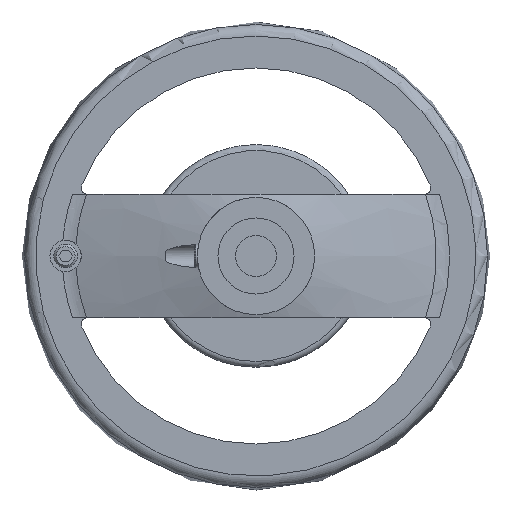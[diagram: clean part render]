
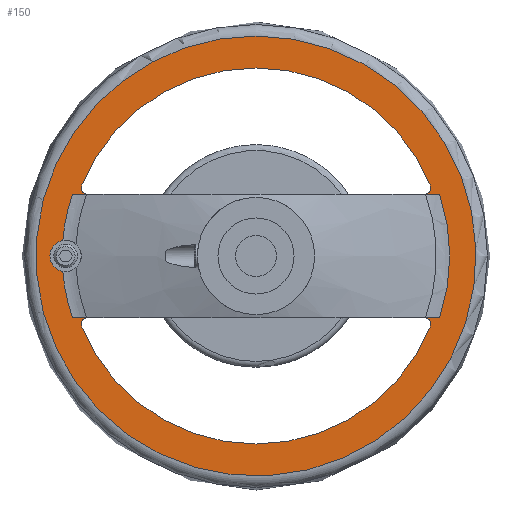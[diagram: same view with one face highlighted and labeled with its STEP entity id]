
A CAD part, left-side view. The second image highlights one B-rep face of the part: STEP entity #150.
In plain terms, the highlighted planar face has unit normal (-1, 0, 0).
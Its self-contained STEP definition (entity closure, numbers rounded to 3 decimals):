
#150 = ADVANCED_FACE( '', ( #360, #361, #362, #363 ), #364, .F. );
#360 = FACE_BOUND( '', #594, .T. );
#361 = FACE_OUTER_BOUND( '', #595, .T. );
#362 = FACE_BOUND( '', #596, .T. );
#363 = FACE_BOUND( '', #597, .T. );
#364 = PLANE( '', #598 );
#594 = EDGE_LOOP( '', ( #1190, #1191, #1192, #1193, #1194, #1195 ) );
#595 = EDGE_LOOP( '', ( #1196, #1197, #1198, #1199, #1200, #1201 ) );
#596 = EDGE_LOOP( '', ( #1202, #1203, #1204, #1205 ) );
#597 = EDGE_LOOP( '', ( #1206, #1207, #1208, #1209 ) );
#598 = AXIS2_PLACEMENT_3D( '', #1210, #1211, #1212 );
#1190 = ORIENTED_EDGE( '', *, *, #1520, .F. );
#1191 = ORIENTED_EDGE( '', *, *, #1385, .F. );
#1192 = ORIENTED_EDGE( '', *, *, #1388, .F. );
#1193 = ORIENTED_EDGE( '', *, *, #1390, .F. );
#1194 = ORIENTED_EDGE( '', *, *, #1519, .F. );
#1195 = ORIENTED_EDGE( '', *, *, #1521, .F. );
#1196 = ORIENTED_EDGE( '', *, *, #1487, .F. );
#1197 = ORIENTED_EDGE( '', *, *, #1463, .T. );
#1198 = ORIENTED_EDGE( '', *, *, #1467, .F. );
#1199 = ORIENTED_EDGE( '', *, *, #1490, .F. );
#1200 = ORIENTED_EDGE( '', *, *, #1460, .T. );
#1201 = ORIENTED_EDGE( '', *, *, #1489, .F. );
#1202 = ORIENTED_EDGE( '', *, *, #1522, .F. );
#1203 = ORIENTED_EDGE( '', *, *, #1515, .F. );
#1204 = ORIENTED_EDGE( '', *, *, #1523, .F. );
#1205 = ORIENTED_EDGE( '', *, *, #1524, .F. );
#1206 = ORIENTED_EDGE( '', *, *, #1525, .F. );
#1207 = ORIENTED_EDGE( '', *, *, #1526, .F. );
#1208 = ORIENTED_EDGE( '', *, *, #1527, .F. );
#1209 = ORIENTED_EDGE( '', *, *, #1406, .F. );
#1210 = CARTESIAN_POINT( '', ( 26., -75.109, 0. ) );
#1211 = DIRECTION( '', ( 1., 0., 0. ) );
#1212 = DIRECTION( '', ( 0., 0., -1. ) );
#1385 = EDGE_CURVE( '', #1612, #1614, #1615, .T. );
#1388 = EDGE_CURVE( '', #1617, #1612, #1619, .T. );
#1390 = EDGE_CURVE( '', #1622, #1617, #1623, .F. );
#1406 = EDGE_CURVE( '', #1650, #1652, #1653, .T. );
#1460 = EDGE_CURVE( '', #1753, #1754, #1755, .T. );
#1463 = EDGE_CURVE( '', #1760, #1758, #1761, .T. );
#1467 = EDGE_CURVE( '', #1765, #1758, #1767, .T. );
#1487 = EDGE_CURVE( '', #1760, #1802, #1803, .T. );
#1489 = EDGE_CURVE( '', #1802, #1754, #1805, .T. );
#1490 = EDGE_CURVE( '', #1753, #1765, #1806, .T. );
#1515 = EDGE_CURVE( '', #1839, #1841, #1842, .T. );
#1519 = EDGE_CURVE( '', #1845, #1622, #1847, .T. );
#1520 = EDGE_CURVE( '', #1614, #1848, #1849, .T. );
#1521 = EDGE_CURVE( '', #1848, #1845, #1850, .T. );
#1522 = EDGE_CURVE( '', #1841, #1851, #1852, .F. );
#1523 = EDGE_CURVE( '', #1853, #1839, #1854, .F. );
#1524 = EDGE_CURVE( '', #1851, #1853, #1855, .F. );
#1525 = EDGE_CURVE( '', #1856, #1650, #1857, .F. );
#1526 = EDGE_CURVE( '', #1858, #1856, #1859, .F. );
#1527 = EDGE_CURVE( '', #1652, #1858, #1860, .F. );
#1612 = VERTEX_POINT( '', #2122 );
#1614 = VERTEX_POINT( '', #2131 );
#1615 = LINE( '', #2132, #2133 );
#1617 = VERTEX_POINT( '', #2143 );
#1619 = CIRCLE( '', #2158, 66.153 );
#1622 = VERTEX_POINT( '', #2161 );
#1623 = CIRCLE( '', #2162, 5.333 );
#1650 = VERTEX_POINT( '', #2262 );
#1652 = VERTEX_POINT( '', #2265 );
#1653 = LINE( '', #2266, #2267 );
#1753 = VERTEX_POINT( '', #2482 );
#1754 = VERTEX_POINT( '', #2483 );
#1755 = CIRCLE( '', #2484, 75.109 );
#1758 = VERTEX_POINT( '', #2491 );
#1760 = VERTEX_POINT( '', #2497 );
#1761 = CIRCLE( '', #2498, 75.109 );
#1765 = VERTEX_POINT( '', #2512 );
#1767 = LINE( '', #2515, #2516 );
#1802 = VERTEX_POINT( '', #2603 );
#1803 = LINE( '', #2604, #2605 );
#1805 = LINE( '', #2608, #2609 );
#1806 = LINE( '', #2610, #2611 );
#1839 = VERTEX_POINT( '', #2743 );
#1841 = VERTEX_POINT( '', #2746 );
#1842 = LINE( '', #2747, #2748 );
#1845 = VERTEX_POINT( '', #2753 );
#1847 = CIRCLE( '', #2762, 66.153 );
#1848 = VERTEX_POINT( '', #2763 );
#1849 = CIRCLE( '', #2764, 66.153 );
#1850 = LINE( '', #2765, #2766 );
#1851 = VERTEX_POINT( '', #2767 );
#1852 = CIRCLE( '', #2768, 2. );
#1853 = VERTEX_POINT( '', #2769 );
#1854 = CIRCLE( '', #2770, 2. );
#1855 = CIRCLE( '', #2771, 64.2 );
#1856 = VERTEX_POINT( '', #2772 );
#1857 = CIRCLE( '', #2773, 2. );
#1858 = VERTEX_POINT( '', #2774 );
#1859 = CIRCLE( '', #2775, 64.2 );
#1860 = CIRCLE( '', #2776, 2. );
#2122 = CARTESIAN_POINT( '', ( 26., 62.681, -21.149 ) );
#2131 = CARTESIAN_POINT( '', ( 26., -62.681, -21.149 ) );
#2132 = CARTESIAN_POINT( '', ( 26., 160., -21.149 ) );
#2133 = VECTOR( '', #2864, 1000. );
#2143 = CARTESIAN_POINT( '', ( 26., 65.944, -5.249 ) );
#2158 = AXIS2_PLACEMENT_3D( '', #2865, #2866, #2867 );
#2161 = CARTESIAN_POINT( '', ( 26., 65.944, 5.249 ) );
#2162 = AXIS2_PLACEMENT_3D( '', #2871, #2872, #2873 );
#2262 = CARTESIAN_POINT( '', ( 26., 57.731, 21.15 ) );
#2265 = CARTESIAN_POINT( '', ( 26., -57.731, 21.15 ) );
#2266 = CARTESIAN_POINT( '', ( 26., -75.109, 21.15 ) );
#2267 = VECTOR( '', #2892, 1000. );
#2482 = CARTESIAN_POINT( '', ( 26., 72.703, 18.859 ) );
#2483 = CARTESIAN_POINT( '', ( 26., 72.703, -18.859 ) );
#2484 = AXIS2_PLACEMENT_3D( '', #3011, #3012, #3013 );
#2491 = CARTESIAN_POINT( '', ( 26., 72.508, 19.596 ) );
#2497 = CARTESIAN_POINT( '', ( 26., 72.508, -19.596 ) );
#2498 = AXIS2_PLACEMENT_3D( '', #3014, #3015, #3016 );
#2512 = CARTESIAN_POINT( '', ( 26., 72.703, 19.596 ) );
#2515 = CARTESIAN_POINT( '', ( 26., 72.703, 19.596 ) );
#2516 = VECTOR( '', #3018, 1000. );
#2603 = CARTESIAN_POINT( '', ( 26., 72.703, -19.596 ) );
#2604 = CARTESIAN_POINT( '', ( 26., 70.703, -19.596 ) );
#2605 = VECTOR( '', #3050, 1000. );
#2608 = CARTESIAN_POINT( '', ( 26., 72.703, -19.596 ) );
#2609 = VECTOR( '', #3052, 1000. );
#2610 = CARTESIAN_POINT( '', ( 26., 72.703, -19.596 ) );
#2611 = VECTOR( '', #3053, 1000. );
#2743 = CARTESIAN_POINT( '', ( 26., -57.731, -21.15 ) );
#2746 = CARTESIAN_POINT( '', ( 26., 57.731, -21.15 ) );
#2747 = CARTESIAN_POINT( '', ( 26., -75.109, -21.15 ) );
#2748 = VECTOR( '', #3081, 1000. );
#2753 = CARTESIAN_POINT( '', ( 26., 62.681, 21.149 ) );
#2762 = AXIS2_PLACEMENT_3D( '', #3084, #3085, #3086 );
#2763 = CARTESIAN_POINT( '', ( 26., -62.681, 21.149 ) );
#2764 = AXIS2_PLACEMENT_3D( '', #3087, #3088, #3089 );
#2765 = CARTESIAN_POINT( '', ( 26., -160., 21.149 ) );
#2766 = VECTOR( '', #3090, 1000. );
#2767 = CARTESIAN_POINT( '', ( 26., 59.588, -23.894 ) );
#2768 = AXIS2_PLACEMENT_3D( '', #3091, #3092, #3093 );
#2769 = CARTESIAN_POINT( '', ( 26., -59.588, -23.894 ) );
#2770 = AXIS2_PLACEMENT_3D( '', #3094, #3095, #3096 );
#2771 = AXIS2_PLACEMENT_3D( '', #3097, #3098, #3099 );
#2772 = CARTESIAN_POINT( '', ( 26., 59.588, 23.894 ) );
#2773 = AXIS2_PLACEMENT_3D( '', #3100, #3101, #3102 );
#2774 = CARTESIAN_POINT( '', ( 26., -59.588, 23.894 ) );
#2775 = AXIS2_PLACEMENT_3D( '', #3103, #3104, #3105 );
#2776 = AXIS2_PLACEMENT_3D( '', #3106, #3107, #3108 );
#2864 = DIRECTION( '', ( 0., -1., 0. ) );
#2865 = CARTESIAN_POINT( '', ( 26., 0., 0. ) );
#2866 = DIRECTION( '', ( -1., 0., 0. ) );
#2867 = DIRECTION( '', ( 0., 0., 1. ) );
#2871 = CARTESIAN_POINT( '', ( 26., 65., 0. ) );
#2872 = DIRECTION( '', ( 1., 0., 0. ) );
#2873 = DIRECTION( '', ( 0., 0., -1. ) );
#2892 = DIRECTION( '', ( 0., -1., 0. ) );
#3011 = CARTESIAN_POINT( '', ( 26., 0., 0. ) );
#3012 = DIRECTION( '', ( -1., 0., 0. ) );
#3013 = DIRECTION( '', ( 0., 0., 1. ) );
#3014 = CARTESIAN_POINT( '', ( 26., 0., 0. ) );
#3015 = DIRECTION( '', ( -1., 0., 0. ) );
#3016 = DIRECTION( '', ( 0., 0., 1. ) );
#3018 = DIRECTION( '', ( 0., -1., 0. ) );
#3050 = DIRECTION( '', ( 0., 1., 0. ) );
#3052 = DIRECTION( '', ( 0., 0., 1. ) );
#3053 = DIRECTION( '', ( 0., 0., 1. ) );
#3081 = DIRECTION( '', ( 0., 1., 0. ) );
#3084 = CARTESIAN_POINT( '', ( 26., 0., 0. ) );
#3085 = DIRECTION( '', ( -1., 0., 0. ) );
#3086 = DIRECTION( '', ( 0., 0., 1. ) );
#3087 = CARTESIAN_POINT( '', ( 26., 0., 0. ) );
#3088 = DIRECTION( '', ( -1., 0., 0. ) );
#3089 = DIRECTION( '', ( 0., 0., 1. ) );
#3090 = DIRECTION( '', ( 0., 1., 0. ) );
#3091 = CARTESIAN_POINT( '', ( 26., 57.731, -23.15 ) );
#3092 = DIRECTION( '', ( 1., 0., 0. ) );
#3093 = DIRECTION( '', ( 0., 0., -1. ) );
#3094 = CARTESIAN_POINT( '', ( 26., -57.731, -23.15 ) );
#3095 = DIRECTION( '', ( 1., 0., 0. ) );
#3096 = DIRECTION( '', ( 0., 0., -1. ) );
#3097 = CARTESIAN_POINT( '', ( 26., 0., 0. ) );
#3098 = DIRECTION( '', ( 1., 0., 0. ) );
#3099 = DIRECTION( '', ( 0., 0., -1. ) );
#3100 = CARTESIAN_POINT( '', ( 26., 57.731, 23.15 ) );
#3101 = DIRECTION( '', ( 1., 0., 0. ) );
#3102 = DIRECTION( '', ( 0., 0., -1. ) );
#3103 = CARTESIAN_POINT( '', ( 26., 0., 0. ) );
#3104 = DIRECTION( '', ( 1., 0., 0. ) );
#3105 = DIRECTION( '', ( 0., 0., -1. ) );
#3106 = CARTESIAN_POINT( '', ( 26., -57.731, 23.15 ) );
#3107 = DIRECTION( '', ( 1., 0., 0. ) );
#3108 = DIRECTION( '', ( 0., 0., -1. ) );
